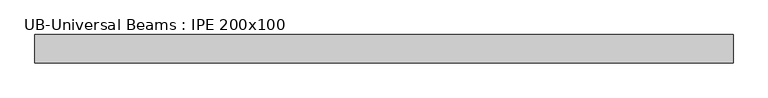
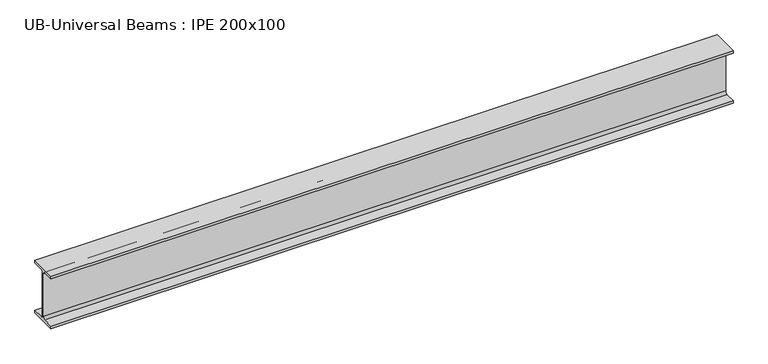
"""IFC4 building model written with IfcOpenShell, lengths in millimetres: beam geometry, UB-Universal Beams : IPE 200x100."""

from ifc_helpers import new_model, si_unit, point, frame, frame_2d, origin, place, context, project, spatial, polyline, circle_curve, trimmed, segment, composite_curve, outline, extrude, source, transform, mapped, element, save


def ub_universal_beams_ipe_200x100_e55b9b05(model_context):
    return source(origin(), model_context, "Body", "SweptSolid", [
        extrude(outline(composite_curve([segment(polyline([(50.0, -89.8), (50.0, -100.0), (-50.0, -100.0), (-50.0, -89.8), (-11.9, -89.8)]), True, "CONTINUOUS"), segment(trimmed(circle_curve(frame_2d((-11.9, -80.9)), 8.9), [point((-11.9, -89.8))], [point((-3.0, -80.9))], True, "CARTESIAN"), True, "CONTINUOUS"), segment(polyline([(-3.0, -80.9), (-3.0, 80.9)]), True, "CONTINUOUS"), segment(trimmed(circle_curve(frame_2d((-11.9, 80.9)), 8.9), [point((-3.0, 80.9))], [point((-11.9, 89.8))], True, "CARTESIAN"), True, "CONTINUOUS"), segment(polyline([(-11.9, 89.8), (-50.0, 89.8), (-50.0, 100.0), (50.0, 100.0), (50.0, 89.8), (11.9, 89.8)]), True, "CONTINUOUS"), segment(trimmed(circle_curve(frame_2d((11.9, 80.9)), 8.9), [point((11.9, 89.8))], [point((3.0, 80.9))], True, "CARTESIAN"), True, "CONTINUOUS"), segment(polyline([(3.0, 80.9), (3.0, -80.9)]), True, "CONTINUOUS"), segment(trimmed(circle_curve(frame_2d((11.9, -80.9)), 8.9), [point((3.0, -80.9))], [point((11.9, -89.8))], True, "CARTESIAN"), True, "CONTINUOUS"), segment(polyline([(11.9, -89.8), (50.0, -89.8)]), True, "CONTINUOUS")], self_intersect=False)), frame((-1029.65, 0.0, 0.0), z_axis=(1.0, 0.0, 0.0), x_axis=(0.0, 1.0, 0.0)), (0.0, 0.0, 1.0), 2459.3),
    ])


if __name__ == "__main__":
    model = new_model("IFC4")
    model_context = context("Model", 3, world=origin())
    ifc_project = project(units=[si_unit("LENGTHUNIT", "METRE", prefix="MILLI")], contexts=[model_context])
    site = spatial("IfcSite", under=ifc_project)
    building = spatial("IfcBuilding", under=site)
    placement = place(None, origin())
    ub_universal_beams_ipe_200x100_shape = ub_universal_beams_ipe_200x100_e55b9b05(model_context)
    element("IfcBeam", 1, ObjectType="UB-Universal Beams : IPE 200x100", at=placement, inside=building, context=model_context, shape_type="MappedRepresentation", body=[
        mapped(ub_universal_beams_ipe_200x100_shape, transform((0.0, 0.0, 0.0), x_axis=(1.0, 0.0, 0.0), y_axis=(0.0, 1.0, 0.0), z_axis=(0.0, 0.0, 1.0))),
    ])
    save(model, "model.ifc")
